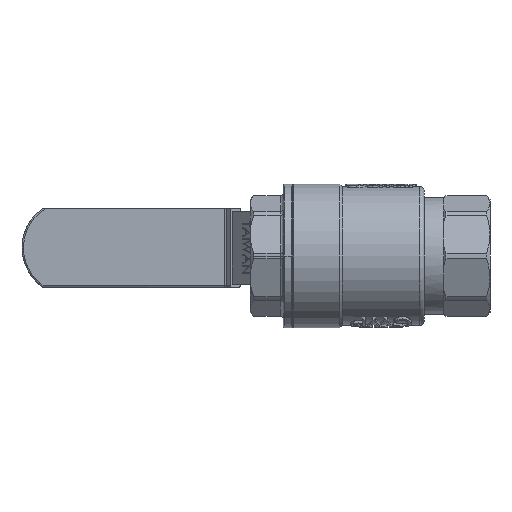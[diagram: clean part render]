
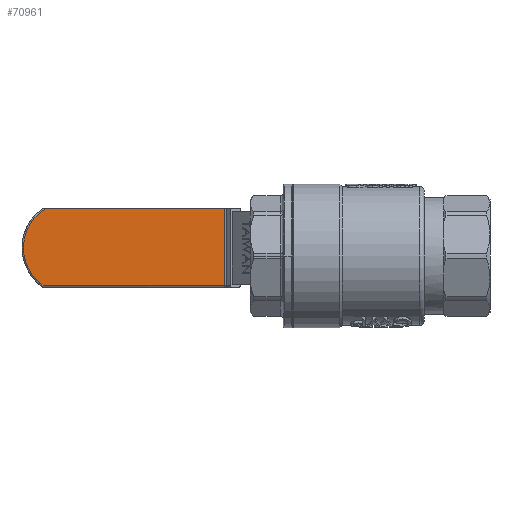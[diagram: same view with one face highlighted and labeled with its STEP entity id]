
A CAD part, front view. The second image highlights one B-rep face of the part: STEP entity #70961.
In plain terms, the highlighted planar face has unit normal (0, -1, 0).
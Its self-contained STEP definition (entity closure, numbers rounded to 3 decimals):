
#1985 = DIRECTION ( 'NONE',  ( 0., 0., 1. ) ) ;
#2550 = PLANE ( 'NONE',  #17274 ) ;
#4747 = DIRECTION ( 'NONE',  ( 0., 0., -1. ) ) ;
#5005 = EDGE_CURVE ( 'NONE', #50422, #8897, #23677, .T. ) ;
#8897 = VERTEX_POINT ( 'NONE', #37701 ) ;
#15673 = VECTOR ( 'NONE', #4747, 1000. ) ;
#17046 = DIRECTION ( 'NONE',  ( 1., 0., 0. ) ) ;
#17274 = AXIS2_PLACEMENT_3D ( 'NONE', #34492, #54494, #1985 ) ;
#20403 = CARTESIAN_POINT ( 'NONE',  ( 113.659, 20.5, 13.15 ) ) ;
#20911 = CARTESIAN_POINT ( 'NONE',  ( 50.456, 20.5, 13.15 ) ) ;
#23677 = LINE ( 'NONE', #61411, #46929 ) ;
#23865 = CARTESIAN_POINT ( 'NONE',  ( 104.441, 20.5, 0. ) ) ;
#30123 = EDGE_CURVE ( 'NONE', #8897, #63356, #38104, .T. ) ;
#34492 = CARTESIAN_POINT ( 'NONE',  ( 49.6, 20.5, 12.65 ) ) ;
#35211 = EDGE_CURVE ( 'NONE', #75392, #50422, #67254, .T. ) ;
#36724 = FACE_OUTER_BOUND ( 'NONE', #49884, .T. ) ;
#36942 = CARTESIAN_POINT ( 'NONE',  ( 50.456, 20.5, 12.65 ) ) ;
#37701 = CARTESIAN_POINT ( 'NONE',  ( 112.901, 20.5, -13.65 ) ) ;
#38104 = CIRCLE ( 'NONE', #56317, 16.059 ) ;
#38855 = ORIENTED_EDGE ( 'NONE', *, *, #35211, .T. ) ;
#42883 = CARTESIAN_POINT ( 'NONE',  ( 50.456, 20.5, 13.15 ) ) ;
#46929 = VECTOR ( 'NONE', #17046, 1000. ) ;
#47156 = DIRECTION ( 'NONE',  ( -1., 0., 0. ) ) ;
#49108 = CARTESIAN_POINT ( 'NONE',  ( 50.456, 20.5, -13.65 ) ) ;
#49884 = EDGE_LOOP ( 'NONE', ( #78466, #65865, #65776, #38855 ) ) ;
#50227 = EDGE_CURVE ( 'NONE', #63356, #75392, #52424, .T. ) ;
#50422 = VERTEX_POINT ( 'NONE', #49108 ) ;
#52424 = LINE ( 'NONE', #20911, #68598 ) ;
#54494 = DIRECTION ( 'NONE',  ( 0., 1., 0. ) ) ;
#56317 = AXIS2_PLACEMENT_3D ( 'NONE', #23865, #81526, #69357 ) ;
#61411 = CARTESIAN_POINT ( 'NONE',  ( 49.6, 20.5, -13.65 ) ) ;
#63356 = VERTEX_POINT ( 'NONE', #20403 ) ;
#65776 = ORIENTED_EDGE ( 'NONE', *, *, #50227, .T. ) ;
#65865 = ORIENTED_EDGE ( 'NONE', *, *, #30123, .T. ) ;
#67254 = LINE ( 'NONE', #36942, #15673 ) ;
#68598 = VECTOR ( 'NONE', #47156, 1000. ) ;
#69357 = DIRECTION ( 'NONE',  ( 0., 0., 1. ) ) ;
#70961 = ADVANCED_FACE ( 'NONE', ( #36724 ), #2550, .F. ) ;
#75392 = VERTEX_POINT ( 'NONE', #42883 ) ;
#78466 = ORIENTED_EDGE ( 'NONE', *, *, #5005, .T. ) ;
#81526 = DIRECTION ( 'NONE',  ( 0., -1., 0. ) ) ;
